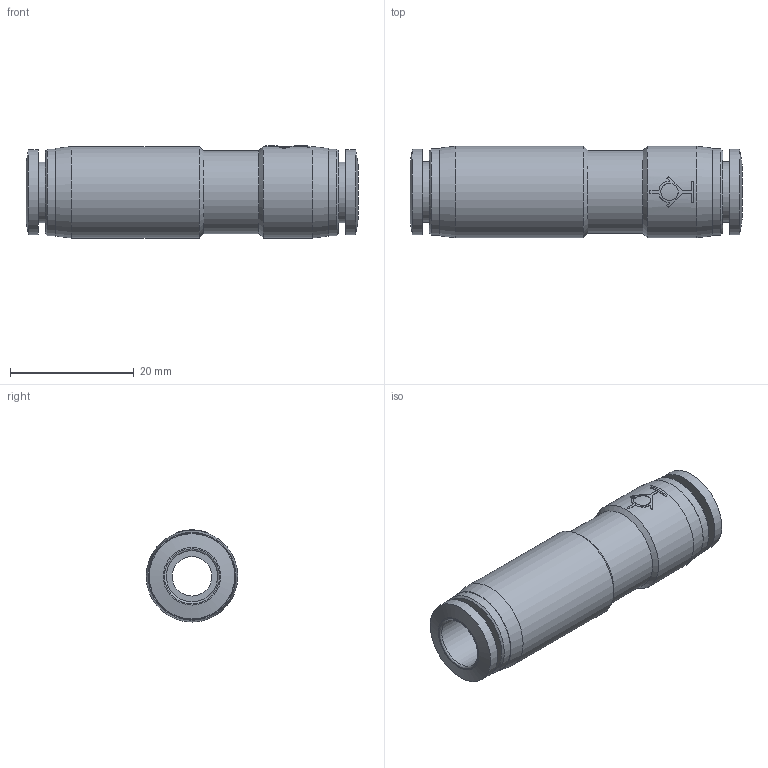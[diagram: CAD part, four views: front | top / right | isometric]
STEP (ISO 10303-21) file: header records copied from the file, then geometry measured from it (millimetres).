
FILE_DESCRIPTION((''),'2;1');
FILE_NAME('D:\INVENTOR\[New Inventor]\CDC Products 3D Ass''y\Stop Fittings\Metric\SPU\SPU08.stp','2009-02-13T13:30:19',('Microsoft'),(''),'Autodesk Inventor 2008','Autodesk Inventor 2008','');
FILE_SCHEMA(('AUTOMOTIVE_DESIGN { 1 0 10303 214 1 1 1 1 }'));
Length unit declared in the file: millimetre
Products named in the file (1): SPU08
Bounding box: 53.7 x 14.8 x 14.9 mm (x, y, z)
Volume: 5945.2 mm3; surface area: 4221.1 mm2
Topology: 1 solids, 1 shells, 53 faces, 111 edges, 70 vertices
Faces by surface type: plane 26, cylinder 17, cone 8, bspline 2
Full cylindrical faces by diameter (mm): 2.8 x1, 6.4 x1, 8.3 x2, 9.8 x2, 13.4 x1, 13.8 x2, 14 x2, 14.8 x2
Entity records: 1572 total; most frequent: CARTESIAN_POINT 468, DIRECTION 238, ORIENTED_EDGE 176, AXIS2_PLACEMENT_3D 104, EDGE_CURVE 88, EDGE_LOOP 88, VERTEX_POINT 70, FACE_OUTER_BOUND 53
